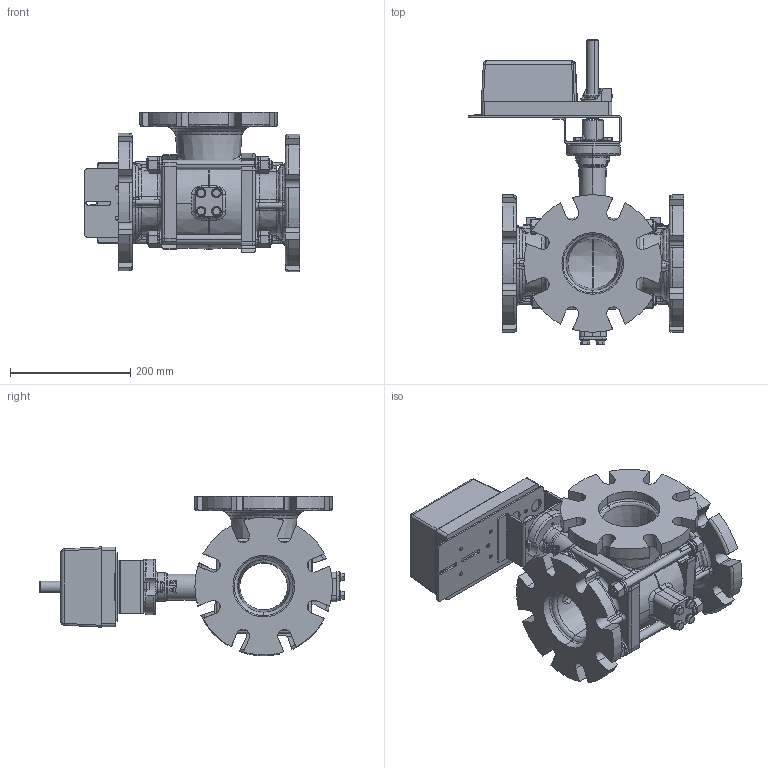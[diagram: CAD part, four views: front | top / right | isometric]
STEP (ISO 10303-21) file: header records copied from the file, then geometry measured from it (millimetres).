
FILE_DESCRIPTION (( 'STEP AP203' ), '1' );
FILE_NAME ('F3WR.J.x.1.70.step', '2024-04-24T07:50:30', ( '' ), ( '' ), 'SwSTEP 2.0', 'SolidWorks 2023', '' );
FILE_SCHEMA (( 'CONFIG_CONTROL_DESIGN' ));
Length unit declared in the file: millimetre
Products named in the file (1): F3WR.J.x.1.70
Bounding box: 357.2 x 506.32 x 265.11 mm (x, y, z)
Surface area: 822692 mm2 (no closed solid volume)
Topology: 0 solids, 61 shells, 1351 faces, 3802 edges, 2507 vertices
Faces by surface type: bspline 406, plane 379, cylinder 375, cone 187, torus 4
Entity records: 73559 total; most frequent: CARTESIAN_POINT 41840, ORIENTED_EDGE 6748, DIRECTION 6015, EDGE_CURVE 3792, VERTEX_POINT 2507, AXIS2_PLACEMENT_3D 2361, EDGE_LOOP 1502, CIRCLE 1415
